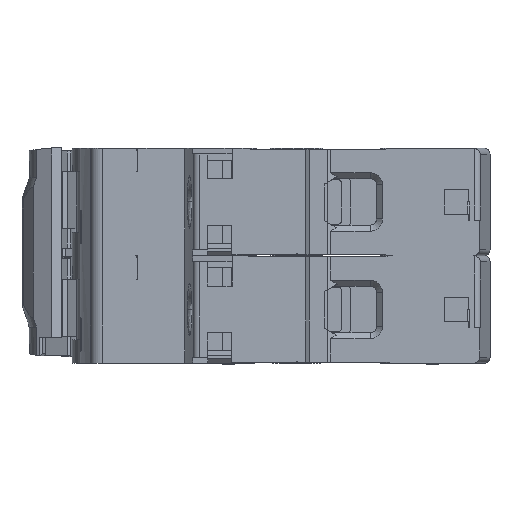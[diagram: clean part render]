
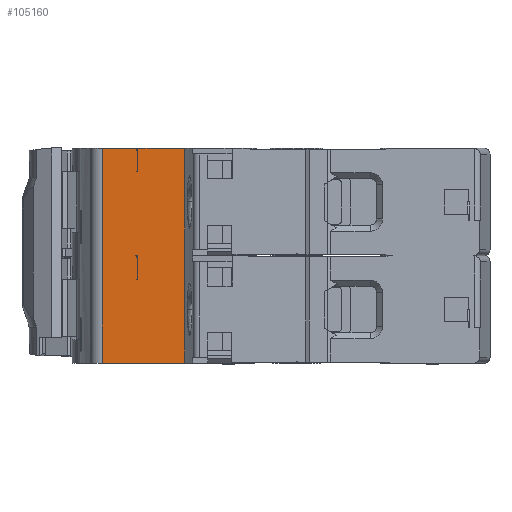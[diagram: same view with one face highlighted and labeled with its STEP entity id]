
A CAD part, left-side view. The second image highlights one B-rep face of the part: STEP entity #105160.
In plain terms, the highlighted planar face has unit normal (-1, 0, 0).
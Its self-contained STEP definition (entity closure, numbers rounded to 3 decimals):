
#2255=DIRECTION('',(0.,0.,-1.));
#2256=VECTOR('',#2255,35.4);
#2257=CARTESIAN_POINT('',(22.729,74.848,
-0.01));
#2258=LINE('',#2257,#2256);
#2263=DIRECTION('',(0.,0.,-1.));
#2264=VECTOR('',#2263,12.7);
#2265=CARTESIAN_POINT('',(22.729,61.259,-8.86));
#2266=LINE('',#2265,#2264);
#2267=DIRECTION('',(0.,1.,0.));
#2268=VECTOR('',#2267,0.302);
#2269=CARTESIAN_POINT('',(22.729,60.256,-25.96));
#2270=LINE('',#2269,#2268);
#2271=DIRECTION('',(0.,1.,0.));
#2272=VECTOR('',#2271,13.59);
#2273=CARTESIAN_POINT('',(22.729,61.259,-35.41));
#2274=LINE('',#2273,#2272);
#2275=DIRECTION('',(0.,-1.,0.));
#2276=VECTOR('',#2275,5.725);
#2277=CARTESIAN_POINT('',(22.729,74.848,
-0.01));
#2278=LINE('',#2277,#2276);
#2279=DIRECTION('',(0.,-1.,0.));
#2280=VECTOR('',#2279,0.07);
#2281=CARTESIAN_POINT('',(22.729,69.046,-3.86));
#2282=LINE('',#2281,#2280);
#2283=DIRECTION('',(0.,1.,0.));
#2284=VECTOR('',#2283,0.302);
#2285=CARTESIAN_POINT('',(22.729,60.256,-8.26));
#2286=LINE('',#2285,#2284);
#2287=DIRECTION('',(0.,1.,0.));
#2288=VECTOR('',#2287,0.148);
#2289=CARTESIAN_POINT('',(22.729,68.976,-17.71));
#2290=LINE('',#2289,#2288);
#2291=DIRECTION('',(0.,-1.,0.));
#2292=VECTOR('',#2291,0.07);
#2293=CARTESIAN_POINT('',(22.729,69.046,-21.56));
#2294=LINE('',#2293,#2292);
#2299=DIRECTION('',(0.,0.,1.));
#2300=VECTOR('',#2299,8.85);
#2301=CARTESIAN_POINT('',(22.729,61.259,-35.41));
#2302=LINE('',#2301,#2300);
#2323=DIRECTION('',(0.,0.,1.));
#2324=VECTOR('',#2323,3.85);
#2325=CARTESIAN_POINT('',(22.729,61.259,-3.86));
#2326=LINE('',#2325,#2324);
#8919=DIRECTION('',(0.,1.,0.));
#8920=VECTOR('',#8919,7.717);
#8921=CARTESIAN_POINT('',(22.729,61.259,
-0.01));
#8922=LINE('',#8921,#8920);
#9043=DIRECTION('',(0.,0.,-1.));
#9044=VECTOR('',#9043,3.85);
#9045=CARTESIAN_POINT('',(22.729,68.976,
-0.01));
#9046=LINE('',#9045,#9044);
#9047=DIRECTION('',(0.,0.02,1.));
#9048=VECTOR('',#9047,3.851);
#9049=CARTESIAN_POINT('',(22.729,69.046,-3.86));
#9050=LINE('',#9049,#9048);
#73997=DIRECTION('',(0.,0.02,1.));
#73998=VECTOR('',#73997,3.851);
#73999=CARTESIAN_POINT('',(22.729,69.046,
-21.56));
#74000=LINE('',#73999,#73998);
#74123=DIRECTION('',(0.,0.,-1.));
#74124=VECTOR('',#74123,3.85);
#74125=CARTESIAN_POINT('',(22.729,68.976,
-17.71));
#74126=LINE('',#74125,#74124);
#78800=DIRECTION('',(0.,-1.,0.));
#78801=VECTOR('',#78800,0.701);
#78802=CARTESIAN_POINT('',(22.729,61.259,
-26.56));
#78803=LINE('',#78802,#78801);
#78822=DIRECTION('',(0.,0.,1.));
#78823=VECTOR('',#78822,0.6);
#78824=CARTESIAN_POINT('',(22.729,60.558,
-26.56));
#78825=LINE('',#78824,#78823);
#78843=DIRECTION('',(0.,0.,-1.));
#78844=VECTOR('',#78843,0.477);
#78845=CARTESIAN_POINT('',(22.729,60.127,
-21.56));
#78846=LINE('',#78845,#78844);
#78847=DIRECTION('',(0.,-0.033,0.999));
#78848=VECTOR('',#78847,3.925);
#78849=CARTESIAN_POINT('',(22.729,60.256,
-25.96));
#78850=LINE('',#78849,#78848);
#78851=DIRECTION('',(0.,1.,0.));
#78852=VECTOR('',#78851,1.132);
#78853=CARTESIAN_POINT('',(22.729,60.127,
-21.56));
#78854=LINE('',#78853,#78852);
#78884=DIRECTION('',(0.,-1.,0.));
#78885=VECTOR('',#78884,0.701);
#78886=CARTESIAN_POINT('',(22.729,61.259,
-8.86));
#78887=LINE('',#78886,#78885);
#78906=DIRECTION('',(0.,0.,1.));
#78907=VECTOR('',#78906,0.6);
#78908=CARTESIAN_POINT('',(22.729,60.558,
-8.86));
#78909=LINE('',#78908,#78907);
#78927=DIRECTION('',(0.,0.,-1.));
#78928=VECTOR('',#78927,0.477);
#78929=CARTESIAN_POINT('',(22.729,60.127,
-3.86));
#78930=LINE('',#78929,#78928);
#78931=DIRECTION('',(0.,-0.033,0.999));
#78932=VECTOR('',#78931,3.925);
#78933=CARTESIAN_POINT('',(22.729,60.256,
-8.26));
#78934=LINE('',#78933,#78932);
#78935=DIRECTION('',(0.,1.,0.));
#78936=VECTOR('',#78935,1.132);
#78937=CARTESIAN_POINT('',(22.729,60.127,
-3.86));
#78938=LINE('',#78937,#78936);
#83615=CARTESIAN_POINT('',(22.729,61.259,
-0.01));
#83616=VERTEX_POINT('',#83615);
#83617=CARTESIAN_POINT('',(22.729,68.976,
-0.01));
#83618=VERTEX_POINT('',#83617);
#87595=CARTESIAN_POINT('',(22.729,61.259,
-8.86));
#87596=CARTESIAN_POINT('',(22.729,60.558,
-8.86));
#87597=VERTEX_POINT('',#87595);
#87598=VERTEX_POINT('',#87596);
#87862=CARTESIAN_POINT('',(22.729,60.256,
-8.26));
#87863=CARTESIAN_POINT('',(22.729,60.558,
-8.26));
#87864=VERTEX_POINT('',#87862);
#87865=VERTEX_POINT('',#87863);
#87882=CARTESIAN_POINT('',(22.729,74.848,
-0.01));
#87883=CARTESIAN_POINT('',(22.729,69.123,
-0.01));
#87884=VERTEX_POINT('',#87882);
#87885=VERTEX_POINT('',#87883);
#87886=CARTESIAN_POINT('',(22.729,69.046,
-3.86));
#87887=VERTEX_POINT('',#87886);
#90305=CARTESIAN_POINT('',(22.729,60.127,
-3.86));
#90306=CARTESIAN_POINT('',(22.729,61.259,
-3.86));
#90307=VERTEX_POINT('',#90305);
#90308=VERTEX_POINT('',#90306);
#90351=CARTESIAN_POINT('',(22.729,60.127,
-4.337));
#90352=VERTEX_POINT('',#90351);
#90377=CARTESIAN_POINT('',(22.729,68.976,
-3.86));
#90378=VERTEX_POINT('',#90377);
#94640=CARTESIAN_POINT('',(22.729,68.976,
-17.71));
#94641=VERTEX_POINT('',#94640);
#97073=CARTESIAN_POINT('',(22.729,74.848,
-35.41));
#97074=VERTEX_POINT('',#97073);
#97075=CARTESIAN_POINT('',(22.729,61.259,
-35.41));
#97076=VERTEX_POINT('',#97075);
#97686=CARTESIAN_POINT('',(22.729,61.259,
-26.56));
#97687=CARTESIAN_POINT('',(22.729,60.558,
-26.56));
#97688=VERTEX_POINT('',#97686);
#97689=VERTEX_POINT('',#97687);
#97967=CARTESIAN_POINT('',(22.729,60.256,
-25.96));
#97968=CARTESIAN_POINT('',(22.729,60.558,
-25.96));
#97969=VERTEX_POINT('',#97967);
#97970=VERTEX_POINT('',#97968);
#98704=CARTESIAN_POINT('',(22.729,69.046,
-21.56));
#98706=VERTEX_POINT('',#98704);
#100220=CARTESIAN_POINT('',(22.729,69.123,
-17.71));
#100222=VERTEX_POINT('',#100220);
#100571=CARTESIAN_POINT('',(22.729,60.127,
-21.56));
#100572=CARTESIAN_POINT('',(22.729,61.259,
-21.56));
#100573=VERTEX_POINT('',#100571);
#100574=VERTEX_POINT('',#100572);
#100625=CARTESIAN_POINT('',(22.729,60.127,
-22.037));
#100626=VERTEX_POINT('',#100625);
#100647=CARTESIAN_POINT('',(22.729,68.976,
-21.56));
#100648=VERTEX_POINT('',#100647);
#105100=CARTESIAN_POINT('',(22.729,68.976,
-1.66));
#105101=DIRECTION('',(-1.,0.,0.));
#105102=DIRECTION('',(0.,-1.,0.));
#105103=AXIS2_PLACEMENT_3D('',#105100,#105101,#105102);
#105104=PLANE('',#105103);
#105106=ORIENTED_EDGE('',*,*,#105105,.T.);
#105108=ORIENTED_EDGE('',*,*,#105107,.F.);
#105110=ORIENTED_EDGE('',*,*,#105109,.T.);
#105112=ORIENTED_EDGE('',*,*,#105111,.F.);
#105114=ORIENTED_EDGE('',*,*,#105113,.T.);
#105116=ORIENTED_EDGE('',*,*,#105115,.F.);
#105118=ORIENTED_EDGE('',*,*,#105117,.F.);
#105120=ORIENTED_EDGE('',*,*,#105119,.F.);
#105122=ORIENTED_EDGE('',*,*,#105121,.T.);
#105123=ORIENTED_EDGE('',*,*,#105090,.F.);
#105125=ORIENTED_EDGE('',*,*,#105124,.T.);
#105127=ORIENTED_EDGE('',*,*,#105126,.F.);
#105129=ORIENTED_EDGE('',*,*,#105128,.T.);
#105131=ORIENTED_EDGE('',*,*,#105130,.F.);
#105133=ORIENTED_EDGE('',*,*,#105132,.F.);
#105135=ORIENTED_EDGE('',*,*,#105134,.F.);
#105137=ORIENTED_EDGE('',*,*,#105136,.F.);
#105139=ORIENTED_EDGE('',*,*,#105138,.T.);
#105141=ORIENTED_EDGE('',*,*,#105140,.F.);
#105143=ORIENTED_EDGE('',*,*,#105142,.T.);
#105145=ORIENTED_EDGE('',*,*,#105144,.F.);
#105147=ORIENTED_EDGE('',*,*,#105146,.F.);
#105148=EDGE_LOOP('',(#105106,#105108,#105110,#105112,#105114,#105116,#105118,
#105120,#105122,#105123,#105125,#105127,#105129,#105131,#105133,#105135,#105137,
#105139,#105141,#105143,#105145,#105147));
#105149=FACE_OUTER_BOUND('',#105148,.F.);
#105151=ORIENTED_EDGE('',*,*,#105150,.T.);
#105153=ORIENTED_EDGE('',*,*,#105152,.F.);
#105155=ORIENTED_EDGE('',*,*,#105154,.T.);
#105157=ORIENTED_EDGE('',*,*,#105156,.F.);
#105158=EDGE_LOOP('',(#105151,#105153,#105155,#105157));
#105159=FACE_BOUND('',#105158,.F.);
#105160=ADVANCED_FACE('',(#105149,#105159),#105104,.T.);
#105090=EDGE_CURVE('',#87884,#97074,#2258,.T.);
#105105=EDGE_CURVE('',#87597,#100574,#2266,.T.);
#105107=EDGE_CURVE('',#100573,#100574,#78854,.T.);
#105109=EDGE_CURVE('',#100573,#100626,#78846,.T.);
#105111=EDGE_CURVE('',#97969,#100626,#78850,.T.);
#105113=EDGE_CURVE('',#97969,#97970,#2270,.T.);
#105115=EDGE_CURVE('',#97689,#97970,#78825,.T.);
#105117=EDGE_CURVE('',#97688,#97689,#78803,.T.);
#105119=EDGE_CURVE('',#97076,#97688,#2302,.T.);
#105121=EDGE_CURVE('',#97076,#97074,#2274,.T.);
#105124=EDGE_CURVE('',#87884,#87885,#2278,.T.);
#105126=EDGE_CURVE('',#87887,#87885,#9050,.T.);
#105128=EDGE_CURVE('',#87887,#90378,#2282,.T.);
#105130=EDGE_CURVE('',#83618,#90378,#9046,.T.);
#105132=EDGE_CURVE('',#83616,#83618,#8922,.T.);
#105134=EDGE_CURVE('',#90308,#83616,#2326,.T.);
#105136=EDGE_CURVE('',#90307,#90308,#78938,.T.);
#105138=EDGE_CURVE('',#90307,#90352,#78930,.T.);
#105140=EDGE_CURVE('',#87864,#90352,#78934,.T.);
#105142=EDGE_CURVE('',#87864,#87865,#2286,.T.);
#105144=EDGE_CURVE('',#87598,#87865,#78909,.T.);
#105146=EDGE_CURVE('',#87597,#87598,#78887,.T.);
#105150=EDGE_CURVE('',#94641,#100222,#2290,.T.);
#105152=EDGE_CURVE('',#98706,#100222,#74000,.T.);
#105154=EDGE_CURVE('',#98706,#100648,#2294,.T.);
#105156=EDGE_CURVE('',#94641,#100648,#74126,.T.);
